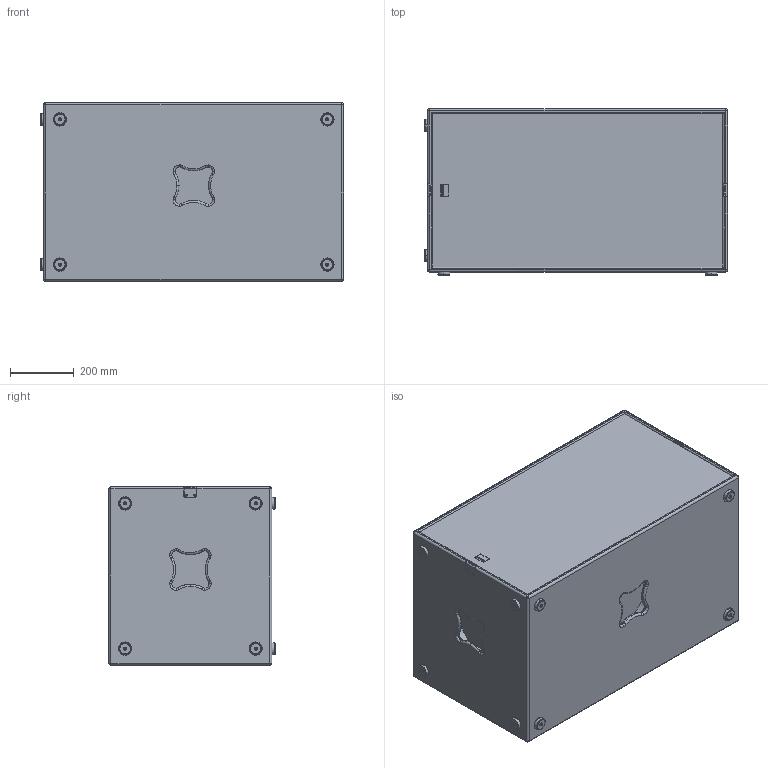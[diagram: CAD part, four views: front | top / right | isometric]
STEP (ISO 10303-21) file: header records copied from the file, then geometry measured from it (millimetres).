
FILE_DESCRIPTION (( 'STEP AP203' ), '1' );
FILE_NAME ('Seeburg_B1502.STEP', '2012-10-16T11:28:56', ( 'Fabian' ), ( '' ), 'SwSTEP 2.0', 'SolidWorks 2009', '' );
FILE_SCHEMA (( 'CONFIG_CONTROL_DESIGN' ));
Length unit declared in the file: millimetre
Products named in the file (2): Seeburg_B1502; B1502
Assembly tree (1 placements, depth 2):
  Seeburg_B1502
    B1502
Bounding box: 952 x 522 x 560 mm (x, y, z)
Volume: 37835706 mm3; surface area: 5497989.4 mm2
Topology: 24 solids, 24 shells, 965 faces, 2373 edges, 1488 vertices
Faces by surface type: cylinder 348, plane 269, torus 196, cone 140, sphere 12
Entity records: 31490 total; most frequent: CARTESIAN_POINT 8176, DIRECTION 5169, ORIENTED_EDGE 4730, EDGE_CURVE 2365, AXIS2_PLACEMENT_3D 2083, VERTEX_POINT 1484, CIRCLE 1114, EDGE_LOOP 1065
